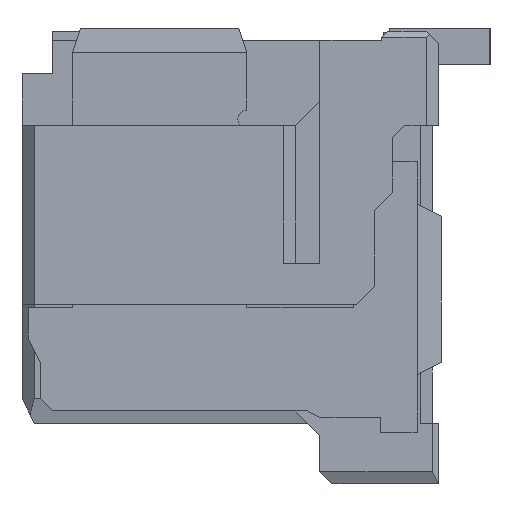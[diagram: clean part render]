
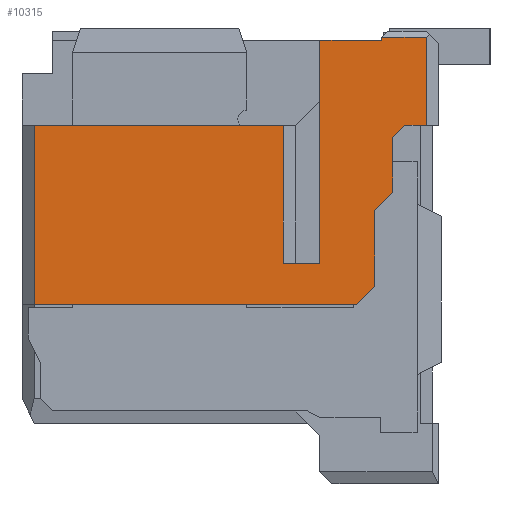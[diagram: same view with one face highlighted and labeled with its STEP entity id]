
A CAD part, left-side view. The second image highlights one B-rep face of the part: STEP entity #10315.
In plain terms, the highlighted planar face has unit normal (-1, 0, 0).
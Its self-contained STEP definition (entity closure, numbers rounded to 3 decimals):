
#1892=DIRECTION('',(0.,0.,-1.));
#1893=VECTOR('',#1892,2.95);
#1894=CARTESIAN_POINT('',(-8.,3.1,4.475));
#1895=LINE('',#1894,#1893);
#1896=DIRECTION('',(0.,-1.,0.));
#1897=VECTOR('',#1896,4.1);
#1898=CARTESIAN_POINT('',(-8.,3.1,4.475));
#1899=LINE('',#1898,#1897);
#1900=DIRECTION('',(0.,0.,1.));
#1901=VECTOR('',#1900,2.27);
#1902=CARTESIAN_POINT('',(-8.,-1.,2.205));
#1903=LINE('',#1902,#1901);
#1904=DIRECTION('',(0.,1.,0.));
#1905=VECTOR('',#1904,0.6);
#1906=CARTESIAN_POINT('',(-8.,-1.6,2.205));
#1907=LINE('',#1906,#1905);
#1908=DIRECTION('',(0.,1.,0.));
#1909=VECTOR('',#1908,1.02);
#1910=CARTESIAN_POINT('',(-8.,-2.62,5.875));
#1911=LINE('',#1910,#1909);
#1912=DIRECTION('',(0.,0.,-1.));
#1913=VECTOR('',#1912,0.05);
#1914=CARTESIAN_POINT('',(-8.,-2.62,5.925));
#1915=LINE('',#1914,#1913);
#1916=DIRECTION('',(0.,1.,0.));
#1917=VECTOR('',#1916,0.73);
#1918=CARTESIAN_POINT('',(-8.,-3.35,5.925));
#1919=LINE('',#1918,#1917);
#1920=DIRECTION('',(0.,0.,1.));
#1921=VECTOR('',#1920,1.45);
#1922=CARTESIAN_POINT('',(-8.,-3.35,4.475));
#1923=LINE('',#1922,#1921);
#1924=DIRECTION('',(0.,1.,0.));
#1925=VECTOR('',#1924,0.35);
#1926=CARTESIAN_POINT('',(-8.,-3.35,4.475));
#1927=LINE('',#1926,#1925);
#1928=DIRECTION('',(0.,0.707,-0.707));
#1929=VECTOR('',#1928,0.283);
#1930=CARTESIAN_POINT('',(-8.,-3.,4.475));
#1931=LINE('',#1930,#1929);
#1932=DIRECTION('',(0.,0.,-1.));
#1933=VECTOR('',#1932,0.9);
#1934=CARTESIAN_POINT('',(-8.,-2.8,4.275));
#1935=LINE('',#1934,#1933);
#1936=DIRECTION('',(0.,0.707,-0.707));
#1937=VECTOR('',#1936,0.424);
#1938=CARTESIAN_POINT('',(-8.,-2.8,3.375));
#1939=LINE('',#1938,#1937);
#1940=DIRECTION('',(0.,0.,-1.));
#1941=VECTOR('',#1940,1.25);
#1942=CARTESIAN_POINT('',(-8.,-2.5,3.075));
#1943=LINE('',#1942,#1941);
#1944=DIRECTION('',(0.,0.707,-0.707));
#1945=VECTOR('',#1944,0.424);
#1946=CARTESIAN_POINT('',(-8.,-2.5,1.825));
#1947=LINE('',#1946,#1945);
#1948=DIRECTION('',(0.,-1.,0.));
#1949=VECTOR('',#1948,5.3);
#1950=CARTESIAN_POINT('',(-8.,3.1,1.525));
#1951=LINE('',#1950,#1949);
#5444=DIRECTION('',(0.,0.,-1.));
#5445=VECTOR('',#5444,3.67);
#5446=CARTESIAN_POINT('',(-8.,-1.6,5.875));
#5447=LINE('',#5446,#5445);
#6013=CARTESIAN_POINT('',(-8.,-3.,4.475));
#6014=CARTESIAN_POINT('',(-8.,-2.8,4.275));
#6015=VERTEX_POINT('',#6013);
#6016=VERTEX_POINT('',#6014);
#6017=CARTESIAN_POINT('',(-8.,-2.8,3.375));
#6018=VERTEX_POINT('',#6017);
#6019=CARTESIAN_POINT('',(-8.,-2.5,3.075));
#6020=VERTEX_POINT('',#6019);
#6021=CARTESIAN_POINT('',(-8.,-2.5,1.825));
#6022=VERTEX_POINT('',#6021);
#6023=CARTESIAN_POINT('',(-8.,-2.2,1.525));
#6024=VERTEX_POINT('',#6023);
#6025=CARTESIAN_POINT('',(-8.,-1.6,5.875));
#6027=VERTEX_POINT('',#6025);
#6035=CARTESIAN_POINT('',(-8.,-2.62,5.875));
#6036=VERTEX_POINT('',#6035);
#7238=CARTESIAN_POINT('',(-8.,-1.6,2.205));
#7239=CARTESIAN_POINT('',(-8.,-1.,2.205));
#7240=VERTEX_POINT('',#7238);
#7241=VERTEX_POINT('',#7239);
#7242=CARTESIAN_POINT('',(-8.,-1.,4.475));
#7243=VERTEX_POINT('',#7242);
#7298=CARTESIAN_POINT('',(-8.,3.1,1.525));
#7300=VERTEX_POINT('',#7298);
#7304=CARTESIAN_POINT('',(-8.,3.1,4.475));
#7305=VERTEX_POINT('',#7304);
#7366=CARTESIAN_POINT('',(-8.,-3.35,5.925));
#7367=CARTESIAN_POINT('',(-8.,-2.62,5.925));
#7368=VERTEX_POINT('',#7366);
#7369=VERTEX_POINT('',#7367);
#7379=CARTESIAN_POINT('',(-8.,-3.35,4.475));
#7381=VERTEX_POINT('',#7379);
#10284=CARTESIAN_POINT('',(-8.,0.,2.3));
#10285=DIRECTION('',(-1.,0.,0.));
#10286=DIRECTION('',(0.,0.,1.));
#10287=AXIS2_PLACEMENT_3D('',#10284,#10285,#10286);
#10288=PLANE('',#10287);
#10290=ORIENTED_EDGE('',*,*,#10289,.F.);
#10292=ORIENTED_EDGE('',*,*,#10291,.T.);
#10294=ORIENTED_EDGE('',*,*,#10293,.F.);
#10296=ORIENTED_EDGE('',*,*,#10295,.F.);
#10298=ORIENTED_EDGE('',*,*,#10297,.F.);
#10300=ORIENTED_EDGE('',*,*,#10299,.F.);
#10302=ORIENTED_EDGE('',*,*,#10301,.F.);
#10303=ORIENTED_EDGE('',*,*,#9748,.F.);
#10304=ORIENTED_EDGE('',*,*,#9825,.F.);
#10305=ORIENTED_EDGE('',*,*,#9848,.T.);
#10307=ORIENTED_EDGE('',*,*,#10306,.T.);
#10308=ORIENTED_EDGE('',*,*,#10233,.T.);
#10309=ORIENTED_EDGE('',*,*,#10251,.T.);
#10310=ORIENTED_EDGE('',*,*,#10265,.T.);
#10311=ORIENTED_EDGE('',*,*,#10278,.T.);
#10312=ORIENTED_EDGE('',*,*,#9943,.F.);
#10313=EDGE_LOOP('',(#10290,#10292,#10294,#10296,#10298,#10300,#10302,#10303,
#10304,#10305,#10307,#10308,#10309,#10310,#10311,#10312));
#10314=FACE_OUTER_BOUND('',#10313,.F.);
#10315=ADVANCED_FACE('',(#10314),#10288,.T.);
#9748=EDGE_CURVE('',#7368,#7369,#1919,.T.);
#9825=EDGE_CURVE('',#7381,#7368,#1923,.T.);
#9848=EDGE_CURVE('',#7381,#6015,#1927,.T.);
#9943=EDGE_CURVE('',#7300,#6024,#1951,.T.);
#10233=EDGE_CURVE('',#6016,#6018,#1935,.T.);
#10251=EDGE_CURVE('',#6018,#6020,#1939,.T.);
#10265=EDGE_CURVE('',#6020,#6022,#1943,.T.);
#10278=EDGE_CURVE('',#6022,#6024,#1947,.T.);
#10289=EDGE_CURVE('',#7305,#7300,#1895,.T.);
#10291=EDGE_CURVE('',#7305,#7243,#1899,.T.);
#10293=EDGE_CURVE('',#7241,#7243,#1903,.T.);
#10295=EDGE_CURVE('',#7240,#7241,#1907,.T.);
#10297=EDGE_CURVE('',#6027,#7240,#5447,.T.);
#10299=EDGE_CURVE('',#6036,#6027,#1911,.T.);
#10301=EDGE_CURVE('',#7369,#6036,#1915,.T.);
#10306=EDGE_CURVE('',#6015,#6016,#1931,.T.);
